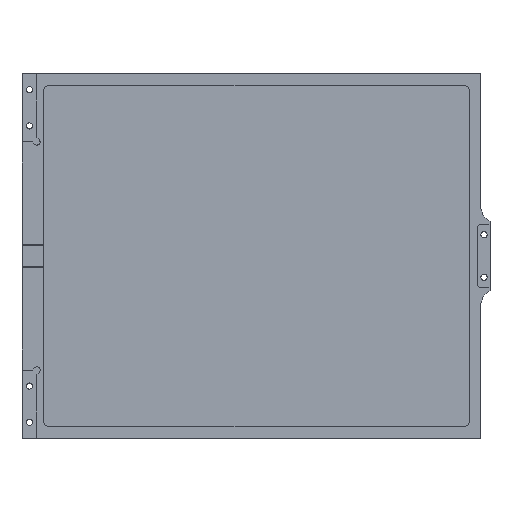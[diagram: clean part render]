
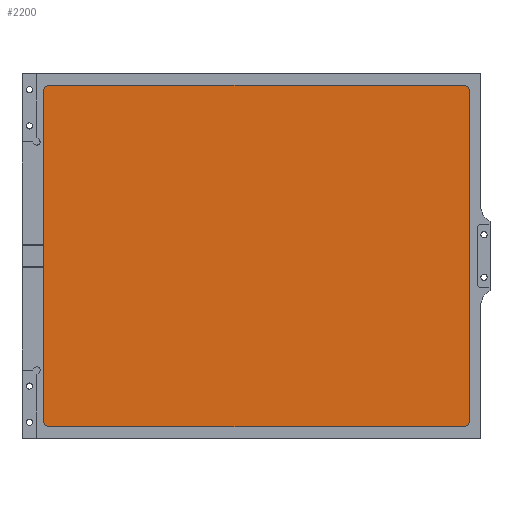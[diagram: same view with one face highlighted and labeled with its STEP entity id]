
A CAD part, front view. The second image highlights one B-rep face of the part: STEP entity #2200.
In plain terms, the highlighted planar face has unit normal (0, -1, 0).
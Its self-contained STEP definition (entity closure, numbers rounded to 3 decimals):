
#39 = VECTOR ( 'NONE', #2406, 1000. ) ;
#48 = DIRECTION ( 'NONE',  ( 0., -1., 0. ) ) ;
#94 = CARTESIAN_POINT ( 'NONE',  ( 99.5, 7., 80. ) ) ;
#131 = VERTEX_POINT ( 'NONE', #3358 ) ;
#310 = VERTEX_POINT ( 'NONE', #374 ) ;
#374 = CARTESIAN_POINT ( 'NONE',  ( -97.5, 7., 77. ) ) ;
#401 = ORIENTED_EDGE ( 'NONE', *, *, #3822, .T. ) ;
#427 = ORIENTED_EDGE ( 'NONE', *, *, #1132, .T. ) ;
#446 = AXIS2_PLACEMENT_3D ( 'NONE', #2060, #2379, #3032 ) ;
#515 = VECTOR ( 'NONE', #696, 1000. ) ;
#520 = CARTESIAN_POINT ( 'NONE',  ( 102.5, 7., 77. ) ) ;
#539 = VERTEX_POINT ( 'NONE', #3939 ) ;
#578 = EDGE_CURVE ( 'NONE', #2302, #1432, #3300, .T. ) ;
#599 = CARTESIAN_POINT ( 'NONE',  ( 99.5, 7., 77. ) ) ;
#696 = DIRECTION ( 'NONE',  ( 0., 0., -1. ) ) ;
#814 = CARTESIAN_POINT ( 'NONE',  ( -94.5, 7., -80. ) ) ;
#914 = DIRECTION ( 'NONE',  ( 0., -1., 0. ) ) ;
#972 = CIRCLE ( 'NONE', #2635, 3. ) ;
#974 = DIRECTION ( 'NONE',  ( 0., 0., 1. ) ) ;
#982 = ORIENTED_EDGE ( 'NONE', *, *, #1849, .T. ) ;
#1132 = EDGE_CURVE ( 'NONE', #539, #3748, #3823, .T. ) ;
#1152 = EDGE_CURVE ( 'NONE', #1432, #3883, #972, .T. ) ;
#1193 = CARTESIAN_POINT ( 'NONE',  ( -94.5, 7., -80. ) ) ;
#1273 = DIRECTION ( 'NONE',  ( 0., 0., 1. ) ) ;
#1432 = VERTEX_POINT ( 'NONE', #520 ) ;
#1704 = CARTESIAN_POINT ( 'NONE',  ( -94.5, 7., 77. ) ) ;
#1733 = LINE ( 'NONE', #1193, #39 ) ;
#1849 = EDGE_CURVE ( 'NONE', #3748, #3544, #1733, .T. ) ;
#1850 = CARTESIAN_POINT ( 'NONE',  ( -97.5, 7., -77. ) ) ;
#1913 = DIRECTION ( 'NONE',  ( 0., 0., 1. ) ) ;
#2060 = CARTESIAN_POINT ( 'NONE',  ( 99.5, 7., -77. ) ) ;
#2081 = EDGE_CURVE ( 'NONE', #3883, #131, #3462, .T. ) ;
#2158 = AXIS2_PLACEMENT_3D ( 'NONE', #1704, #2942, #3852 ) ;
#2180 = AXIS2_PLACEMENT_3D ( 'NONE', #3758, #914, #974 ) ;
#2200 = ADVANCED_FACE ( 'NONE', ( #3298 ), #2619, .F. ) ;
#2302 = VERTEX_POINT ( 'NONE', #3285 ) ;
#2379 = DIRECTION ( 'NONE',  ( 0., -1., 0. ) ) ;
#2406 = DIRECTION ( 'NONE',  ( 1., 0., 0. ) ) ;
#2491 = VECTOR ( 'NONE', #3067, 1000. ) ;
#2501 = ORIENTED_EDGE ( 'NONE', *, *, #578, .T. ) ;
#2510 = EDGE_LOOP ( 'NONE', ( #2590, #401, #427, #982, #2947, #2501, #3540, #3631 ) ) ;
#2524 = CIRCLE ( 'NONE', #446, 3. ) ;
#2590 = ORIENTED_EDGE ( 'NONE', *, *, #3380, .T. ) ;
#2619 = PLANE ( 'NONE',  #2158 ) ;
#2635 = AXIS2_PLACEMENT_3D ( 'NONE', #599, #3741, #1913 ) ;
#2758 = CARTESIAN_POINT ( 'NONE',  ( 102.5, 7., -77. ) ) ;
#2808 = CIRCLE ( 'NONE', #3972, 3. ) ;
#2858 = CARTESIAN_POINT ( 'NONE',  ( -94.5, 7., 80. ) ) ;
#2868 = CARTESIAN_POINT ( 'NONE',  ( 99.5, 7., -80. ) ) ;
#2942 = DIRECTION ( 'NONE',  ( 0., 1., 0. ) ) ;
#2947 = ORIENTED_EDGE ( 'NONE', *, *, #3710, .T. ) ;
#3032 = DIRECTION ( 'NONE',  ( 0., 0., -1. ) ) ;
#3067 = DIRECTION ( 'NONE',  ( 0., 0., 1. ) ) ;
#3285 = CARTESIAN_POINT ( 'NONE',  ( 102.5, 7., -77. ) ) ;
#3298 = FACE_OUTER_BOUND ( 'NONE', #2510, .T. ) ;
#3300 = LINE ( 'NONE', #2758, #2491 ) ;
#3358 = CARTESIAN_POINT ( 'NONE',  ( -94.5, 7., 80. ) ) ;
#3380 = EDGE_CURVE ( 'NONE', #131, #310, #2808, .T. ) ;
#3437 = DIRECTION ( 'NONE',  ( -1., 0., 0. ) ) ;
#3462 = LINE ( 'NONE', #2858, #3709 ) ;
#3540 = ORIENTED_EDGE ( 'NONE', *, *, #1152, .T. ) ;
#3544 = VERTEX_POINT ( 'NONE', #2868 ) ;
#3631 = ORIENTED_EDGE ( 'NONE', *, *, #2081, .T. ) ;
#3709 = VECTOR ( 'NONE', #3437, 1000. ) ;
#3710 = EDGE_CURVE ( 'NONE', #3544, #2302, #2524, .T. ) ;
#3724 = CARTESIAN_POINT ( 'NONE',  ( -94.5, 7., 77. ) ) ;
#3741 = DIRECTION ( 'NONE',  ( 0., -1., 0. ) ) ;
#3748 = VERTEX_POINT ( 'NONE', #814 ) ;
#3758 = CARTESIAN_POINT ( 'NONE',  ( -94.5, 7., -77. ) ) ;
#3806 = LINE ( 'NONE', #1850, #515 ) ;
#3822 = EDGE_CURVE ( 'NONE', #310, #539, #3806, .T. ) ;
#3823 = CIRCLE ( 'NONE', #2180, 3. ) ;
#3852 = DIRECTION ( 'NONE',  ( 0., 0., 1. ) ) ;
#3883 = VERTEX_POINT ( 'NONE', #94 ) ;
#3939 = CARTESIAN_POINT ( 'NONE',  ( -97.5, 7., -77. ) ) ;
#3972 = AXIS2_PLACEMENT_3D ( 'NONE', #3724, #48, #1273 ) ;
